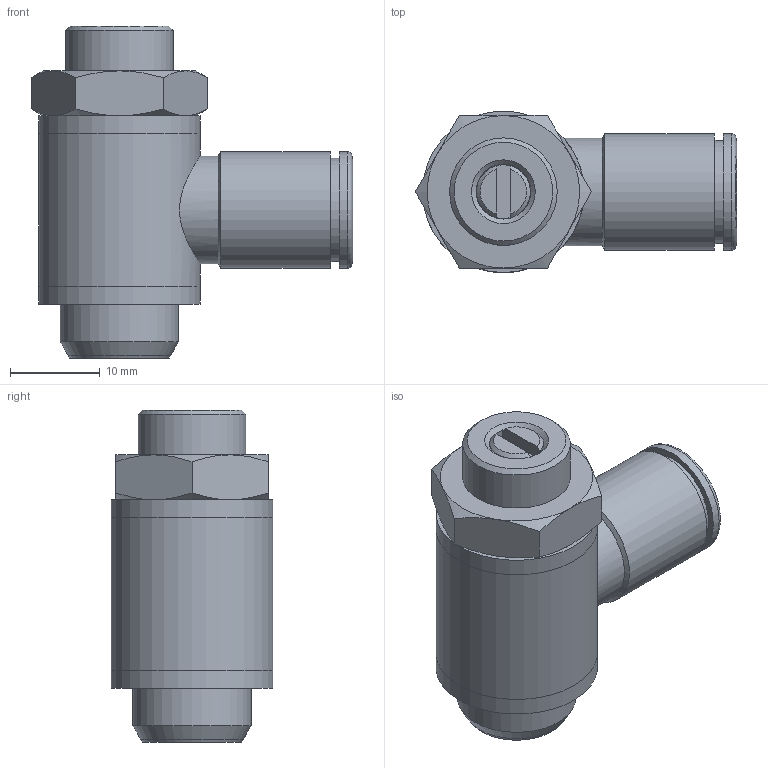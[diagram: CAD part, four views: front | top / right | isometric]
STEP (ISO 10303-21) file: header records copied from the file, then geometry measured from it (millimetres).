
FILE_DESCRIPTION(('Bauteilbeschreibung','HiCAD-Model','HiCAD-STEP-TRANSLATION','Bauteilbeschreibung'),'2;1');
FILE_NAME('B:/ABGLEICH/ZEICHNUNGEN/STEP FÜR INTERNET/STEP/IPSO 029/304808_IPSO_029_8_1-4.STP','2012-05-07T10:03:02+00:00',('Konstrukteur'),('Konstrukteur Firma GmbH'),' HiCAD neXt 2008, Step 3.1.1401.2J ','HiCAD neXt 2008','confidential');
FILE_SCHEMA(('AUTOMOTIVE_DESIGN { 1 2 10303 214 0 1 1 1 }'));
Length unit declared in the file: millimetre
Products named in the file (10): A04808_IPSO_029_8_1_4; A00033; A00043_DTG__1_4_UNV ; A04002_K_RPER; A040020K0RPER; G 1_4; A04002_SPINDEL; A04022_BUCHSE; DR8_1_NEU; R201208_N
Assembly tree (9 placements, depth 3):
  A04808_IPSO_029_8_1_4
    A00033
    A00043_DTG__1_4_UNV 
    A04002_K_RPER
    A040020K0RPER
      G 1_4
    A04002_SPINDEL
    A04022_BUCHSE
    DR8_1_NEU
    R201208_N
Bounding box: 35.81 x 18 x 37 mm (x, y, z)
Volume: 7653.4 mm3; surface area: 9442.4 mm2
Topology: 8 solids, 8 shells, 144 faces, 288 edges, 175 vertices
Faces by surface type: plane 50, cylinder 47, cone 44, torus 3
Full cylindrical faces by diameter (mm): 4.7 x1, 5.5 x1, 6 x1, 6.1 x2, 7 x1, 7.4 x1, 7.5 x1, 7.6 x1, 7.7 x1, 8.1 x1, 8.2 x1, 8.3 x1, 8.9 x1, 9 x1, 9.1 x1, 9.4 x1, 9.5 x1, 10 x1, 10.1 x1, 10.2 x1, 11 x1, 11.2 x1, 11.445 x2, 11.5 x1, 11.6 x1, 12 x2, 12.95 x1, 13 x2, 13.157 x1, 13.3 x2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
Entity records: 5773 total; most frequent: CARTESIAN_POINT 1898, DIRECTION 630, ORIENTED_EDGE 392, AXIS2_PLACEMENT_3D 302, EDGE_LOOP 252, COLOUR_RGB 202, PRESENTATION_STYLE_ASSIGNMENT 202, EDGE_CURVE 196
